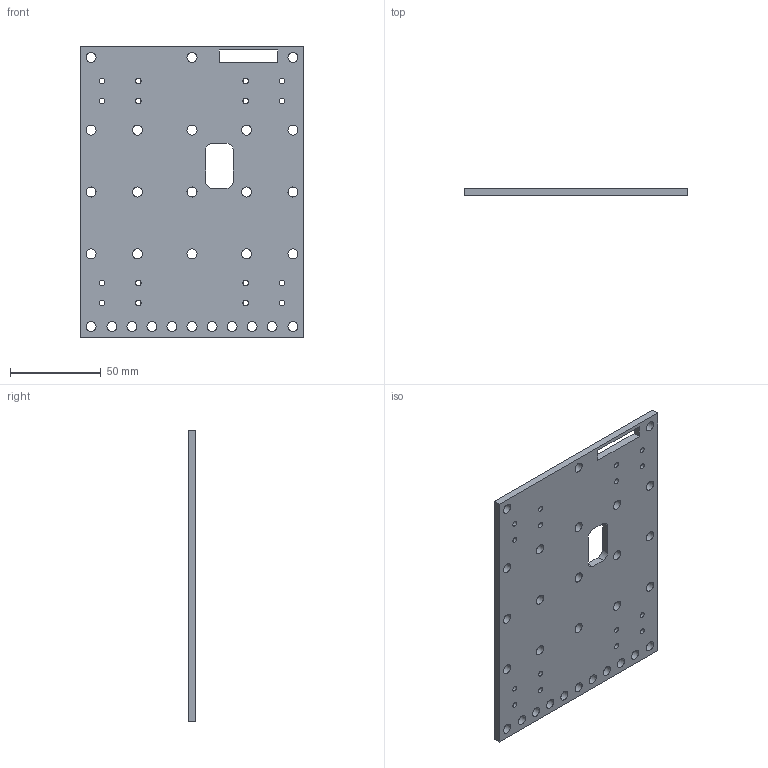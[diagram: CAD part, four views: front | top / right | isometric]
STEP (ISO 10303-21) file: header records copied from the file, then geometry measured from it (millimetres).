
FILE_DESCRIPTION(/* description */ ('STEP AP242 Edition 2','CAx-IF Rec.Pracs.---Representation and Presentation of Product Manufacturing Information (PMI)---4.0---2014-10-13','CAx-IF Rec.Pracs.---3D Tessellated Geometry---0.4---2014-09-14','2;1','CAx-IF Rec.Pracs.---User Defined Attributes---1.5---2016-08-15'),/* implementation_level */ '2;1');
FILE_NAME(/* name */ 'Assem2h - under11cvvv',/* time_stamp */ '2025-12-01T14:50:39Z',/* author */ (''),/* organization */ (''),/* preprocessor_version */ 'ST-DEVELOPER v20',/* originating_system */ 'ONSHAPE BY PTC INC, 1.207',/* authorisation */ ' ');
FILE_SCHEMA (('AP242_MANAGED_MODEL_BASED_3D_ENGINEERING_MIM_LF { 1 0 10303 442 3 1 4 }'));
Length unit declared in the file: metre
Products named in the file (1): under11cvvv
Bounding box: 123 x 4 x 160 mm (x, y, z)
Volume: 73183.8 mm3; surface area: 42067.9 mm2
Topology: 1 solids, 1 shells, 63 faces, 183 edges, 122 vertices
Faces by surface type: cylinder 49, plane 14
Full cylindrical faces by diameter (mm): 3 x16, 5.5 x29
Entity records: 2132 total; most frequent: DIRECTION 364, CARTESIAN_POINT 324, ORIENTED_EDGE 276, EDGE_LOOP 202, FACE_BOUND 202, AXIS2_PLACEMENT_3D 162, EDGE_CURVE 138, VERTEX_POINT 122
